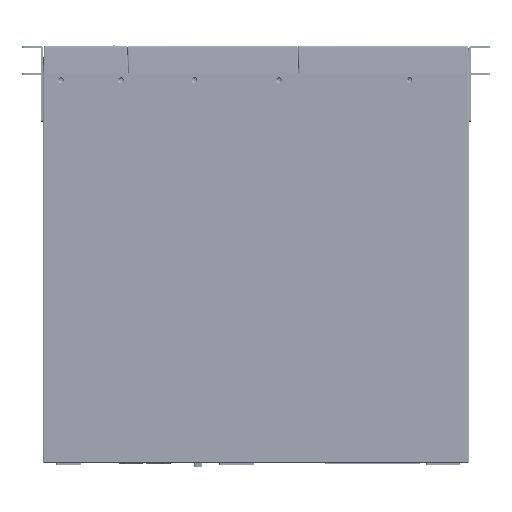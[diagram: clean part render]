
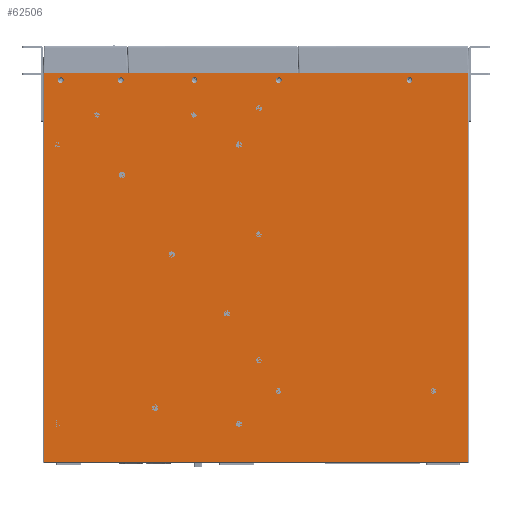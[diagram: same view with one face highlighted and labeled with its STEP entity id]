
A CAD part, front view. The second image highlights one B-rep face of the part: STEP entity #62506.
In plain terms, the highlighted planar face has unit normal (0, -1, 0).
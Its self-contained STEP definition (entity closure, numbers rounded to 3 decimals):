
#1149 = ORIENTED_EDGE ( 'NONE', *, *, #237648, .T. ) ;
#3039 = EDGE_CURVE ( 'NONE', #136600, #45403, #133325, .T. ) ;
#7567 = CARTESIAN_POINT ( 'NONE',  ( 7.81, 64.731, 766.431 ) ) ;
#11314 = DIRECTION ( 'NONE',  ( 0., 1., 0. ) ) ;
#17130 = CARTESIAN_POINT ( 'NONE',  ( 83.81, 64.731, 772.431 ) ) ;
#32321 = ORIENTED_EDGE ( 'NONE', *, *, #88094, .T. ) ;
#34384 = DIRECTION ( 'NONE',  ( 1., 0., 0. ) ) ;
#36699 = CARTESIAN_POINT ( 'NONE',  ( 305.81, 64.731, 769.431 ) ) ;
#39288 = CARTESIAN_POINT ( 'NONE',  ( 170.81, 64.731, 772.431 ) ) ;
#40963 = DIRECTION ( 'NONE',  ( 0., 0., 1. ) ) ;
#45385 = DIRECTION ( 'NONE',  ( -1., 0., 0. ) ) ;
#45403 = VERTEX_POINT ( 'NONE', #17130 ) ;
#45433 = EDGE_LOOP ( 'NONE', ( #115056, #195391, #232130, #143807 ) ) ;
#45985 = CARTESIAN_POINT ( 'NONE',  ( 83.81, 64.731, 769.431 ) ) ;
#51758 = FACE_OUTER_BOUND ( 'NONE', #45433, .T. ) ;
#58568 = ORIENTED_EDGE ( 'NONE', *, *, #178940, .T. ) ;
#59242 = VERTEX_POINT ( 'NONE', #259096 ) ;
#62506 = ADVANCED_FACE ( 'NONE', ( #161155, #117922, #269193, #187000, #140960, #51758 ), #205788, .F. ) ;
#64111 = LINE ( 'NONE', #66914, #179563 ) ;
#64489 = AXIS2_PLACEMENT_3D ( 'NONE', #45985, #244664, #158226 ) ;
#64821 = DIRECTION ( 'NONE',  ( 0., 0., -1. ) ) ;
#66914 = CARTESIAN_POINT ( 'NONE',  ( -71.39, 64.731, 776.431 ) ) ;
#70815 = DIRECTION ( 'NONE',  ( 0., 1., 0. ) ) ;
#72300 = AXIS2_PLACEMENT_3D ( 'NONE', #270605, #11314, #34384 ) ;
#78087 = VERTEX_POINT ( 'NONE', #251225 ) ;
#78692 = AXIS2_PLACEMENT_3D ( 'NONE', #221700, #218855, #201497 ) ;
#79225 = LINE ( 'NONE', #191467, #149064 ) ;
#83757 = DIRECTION ( 'NONE',  ( 0., 0., -1. ) ) ;
#85533 = CIRCLE ( 'NONE', #113002, 3. ) ;
#86435 = ORIENTED_EDGE ( 'NONE', *, *, #3039, .T. ) ;
#86789 = DIRECTION ( 'NONE',  ( 0., 0., 1. ) ) ;
#88094 = EDGE_CURVE ( 'NONE', #220796, #283224, #244165, .T. ) ;
#88245 = ORIENTED_EDGE ( 'NONE', *, *, #125540, .T. ) ;
#92291 = VERTEX_POINT ( 'NONE', #7567 ) ;
#96467 = CIRCLE ( 'NONE', #275693, 3. ) ;
#99926 = VERTEX_POINT ( 'NONE', #257424 ) ;
#101205 = EDGE_CURVE ( 'NONE', #207233, #111981, #263522, .T. ) ;
#103585 = CARTESIAN_POINT ( 'NONE',  ( 170.81, 64.731, 769.431 ) ) ;
#111666 = EDGE_CURVE ( 'NONE', #111981, #99926, #64111, .T. ) ;
#111981 = VERTEX_POINT ( 'NONE', #133651 ) ;
#112272 = EDGE_CURVE ( 'NONE', #45403, #136600, #115201, .T. ) ;
#113002 = AXIS2_PLACEMENT_3D ( 'NONE', #103585, #250517, #141066 ) ;
#115056 = ORIENTED_EDGE ( 'NONE', *, *, #129845, .F. ) ;
#115201 = CIRCLE ( 'NONE', #276171, 3. ) ;
#117922 = FACE_BOUND ( 'NONE', #125650, .T. ) ;
#121106 = ORIENTED_EDGE ( 'NONE', *, *, #237859, .T. ) ;
#125540 = EDGE_CURVE ( 'NONE', #169256, #59242, #258240, .T. ) ;
#125650 = EDGE_LOOP ( 'NONE', ( #210144, #1149 ) ) ;
#126914 = CARTESIAN_POINT ( 'NONE',  ( 7.81, 64.731, 769.431 ) ) ;
#128959 = LINE ( 'NONE', #216816, #139536 ) ;
#128995 = EDGE_CURVE ( 'NONE', #160433, #92291, #226970, .T. ) ;
#129845 = EDGE_CURVE ( 'NONE', #99926, #78087, #79225, .T. ) ;
#133325 = CIRCLE ( 'NONE', #64489, 3. ) ;
#133651 = CARTESIAN_POINT ( 'NONE',  ( -71.39, 64.731, 776.431 ) ) ;
#136600 = VERTEX_POINT ( 'NONE', #252443 ) ;
#136850 = CIRCLE ( 'NONE', #182693, 3. ) ;
#138030 = VERTEX_POINT ( 'NONE', #139453 ) ;
#139453 = CARTESIAN_POINT ( 'NONE',  ( -54.19, 64.731, 766.431 ) ) ;
#139536 = VECTOR ( 'NONE', #45385, 1000. ) ;
#140960 = FACE_BOUND ( 'NONE', #237014, .T. ) ;
#141011 = VERTEX_POINT ( 'NONE', #284460 ) ;
#141066 = DIRECTION ( 'NONE',  ( 0., 0., -1. ) ) ;
#143807 = ORIENTED_EDGE ( 'NONE', *, *, #153887, .F. ) ;
#145164 = CARTESIAN_POINT ( 'NONE',  ( -71.39, 64.731, 375.731 ) ) ;
#149064 = VECTOR ( 'NONE', #210230, 1000. ) ;
#153887 = EDGE_CURVE ( 'NONE', #78087, #207233, #128959, .T. ) ;
#154059 = CARTESIAN_POINT ( 'NONE',  ( -71.39, 64.731, 375.731 ) ) ;
#157029 = CARTESIAN_POINT ( 'NONE',  ( 83.81, 64.731, 769.431 ) ) ;
#158226 = DIRECTION ( 'NONE',  ( 0., 0., -1. ) ) ;
#160433 = VERTEX_POINT ( 'NONE', #242700 ) ;
#160880 = CIRCLE ( 'NONE', #248235, 3. ) ;
#161155 = FACE_BOUND ( 'NONE', #265905, .T. ) ;
#165343 = CARTESIAN_POINT ( 'NONE',  ( 7.81, 64.731, 769.431 ) ) ;
#169095 = DIRECTION ( 'NONE',  ( 0., 1., 0. ) ) ;
#169256 = VERTEX_POINT ( 'NONE', #216140 ) ;
#170331 = CARTESIAN_POINT ( 'NONE',  ( -54.19, 64.731, 769.431 ) ) ;
#173490 = DIRECTION ( 'NONE',  ( 1., 0., 0. ) ) ;
#174208 = CARTESIAN_POINT ( 'NONE',  ( 305.81, 64.731, 769.431 ) ) ;
#178940 = EDGE_CURVE ( 'NONE', #59242, #169256, #229845, .T. ) ;
#179563 = VECTOR ( 'NONE', #173490, 1000. ) ;
#182693 = AXIS2_PLACEMENT_3D ( 'NONE', #170331, #279776, #86789 ) ;
#184018 = AXIS2_PLACEMENT_3D ( 'NONE', #36699, #212385, #40963 ) ;
#184301 = DIRECTION ( 'NONE',  ( 0., 0., 1. ) ) ;
#185226 = EDGE_LOOP ( 'NONE', ( #32321, #121106 ) ) ;
#187000 = FACE_BOUND ( 'NONE', #185226, .T. ) ;
#191467 = CARTESIAN_POINT ( 'NONE',  ( 366.01, 64.731, 776.431 ) ) ;
#195391 = ORIENTED_EDGE ( 'NONE', *, *, #111666, .F. ) ;
#201497 = DIRECTION ( 'NONE',  ( 0., 0., 1. ) ) ;
#204012 = EDGE_CURVE ( 'NONE', #141011, #138030, #136850, .T. ) ;
#205788 = PLANE ( 'NONE',  #72300 ) ;
#207233 = VERTEX_POINT ( 'NONE', #145164 ) ;
#210144 = ORIENTED_EDGE ( 'NONE', *, *, #128995, .T. ) ;
#210230 = DIRECTION ( 'NONE',  ( 0., 0., -1. ) ) ;
#210899 = DIRECTION ( 'NONE',  ( 0., 0., 1. ) ) ;
#212385 = DIRECTION ( 'NONE',  ( 0., 1., 0. ) ) ;
#213205 = DIRECTION ( 'NONE',  ( 0., 0., -1. ) ) ;
#213235 = AXIS2_PLACEMENT_3D ( 'NONE', #165343, #169095, #210899 ) ;
#216140 = CARTESIAN_POINT ( 'NONE',  ( 305.81, 64.731, 766.431 ) ) ;
#216816 = CARTESIAN_POINT ( 'NONE',  ( 366.01, 64.731, 375.731 ) ) ;
#218855 = DIRECTION ( 'NONE',  ( 0., 1., 0. ) ) ;
#220796 = VERTEX_POINT ( 'NONE', #39288 ) ;
#221700 = CARTESIAN_POINT ( 'NONE',  ( 170.81, 64.731, 769.431 ) ) ;
#224693 = DIRECTION ( 'NONE',  ( 0., 1., 0. ) ) ;
#226970 = CIRCLE ( 'NONE', #213235, 3. ) ;
#229845 = CIRCLE ( 'NONE', #184018, 3. ) ;
#230684 = AXIS2_PLACEMENT_3D ( 'NONE', #174208, #246126, #64821 ) ;
#232130 = ORIENTED_EDGE ( 'NONE', *, *, #101205, .F. ) ;
#237014 = EDGE_LOOP ( 'NONE', ( #88245, #58568 ) ) ;
#237648 = EDGE_CURVE ( 'NONE', #92291, #160433, #160880, .T. ) ;
#237859 = EDGE_CURVE ( 'NONE', #283224, #220796, #85533, .T. ) ;
#241890 = DIRECTION ( 'NONE',  ( 0., 0., 1. ) ) ;
#242700 = CARTESIAN_POINT ( 'NONE',  ( 7.81, 64.731, 772.431 ) ) ;
#244165 = CIRCLE ( 'NONE', #78692, 3. ) ;
#244180 = ORIENTED_EDGE ( 'NONE', *, *, #273806, .T. ) ;
#244664 = DIRECTION ( 'NONE',  ( 0., 1., 0. ) ) ;
#246126 = DIRECTION ( 'NONE',  ( 0., 1., 0. ) ) ;
#248235 = AXIS2_PLACEMENT_3D ( 'NONE', #126914, #283819, #83757 ) ;
#250517 = DIRECTION ( 'NONE',  ( 0., 1., 0. ) ) ;
#251225 = CARTESIAN_POINT ( 'NONE',  ( 366.01, 64.731, 375.731 ) ) ;
#252443 = CARTESIAN_POINT ( 'NONE',  ( 83.81, 64.731, 766.431 ) ) ;
#253413 = ORIENTED_EDGE ( 'NONE', *, *, #112272, .T. ) ;
#254714 = EDGE_LOOP ( 'NONE', ( #253413, #86435 ) ) ;
#257424 = CARTESIAN_POINT ( 'NONE',  ( 366.01, 64.731, 776.431 ) ) ;
#258240 = CIRCLE ( 'NONE', #230684, 3. ) ;
#259096 = CARTESIAN_POINT ( 'NONE',  ( 305.81, 64.731, 772.431 ) ) ;
#261945 = VECTOR ( 'NONE', #241890, 1000. ) ;
#263522 = LINE ( 'NONE', #154059, #261945 ) ;
#265905 = EDGE_LOOP ( 'NONE', ( #282872, #244180 ) ) ;
#268082 = CARTESIAN_POINT ( 'NONE',  ( -54.19, 64.731, 769.431 ) ) ;
#269193 = FACE_BOUND ( 'NONE', #254714, .T. ) ;
#270605 = CARTESIAN_POINT ( 'NONE',  ( 147.31, 64.731, 575.431 ) ) ;
#273806 = EDGE_CURVE ( 'NONE', #138030, #141011, #96467, .T. ) ;
#275693 = AXIS2_PLACEMENT_3D ( 'NONE', #268082, #70815, #213205 ) ;
#276171 = AXIS2_PLACEMENT_3D ( 'NONE', #157029, #224693, #184301 ) ;
#279776 = DIRECTION ( 'NONE',  ( 0., 1., 0. ) ) ;
#282872 = ORIENTED_EDGE ( 'NONE', *, *, #204012, .T. ) ;
#283224 = VERTEX_POINT ( 'NONE', #283845 ) ;
#283819 = DIRECTION ( 'NONE',  ( 0., 1., 0. ) ) ;
#283845 = CARTESIAN_POINT ( 'NONE',  ( 170.81, 64.731, 766.431 ) ) ;
#284460 = CARTESIAN_POINT ( 'NONE',  ( -54.19, 64.731, 772.431 ) ) ;
